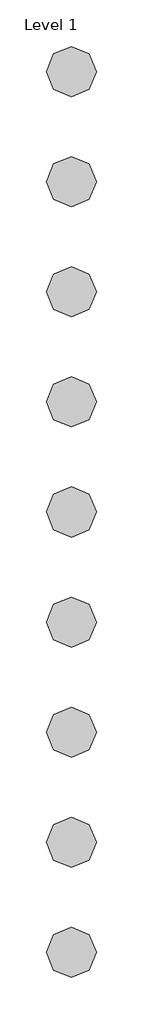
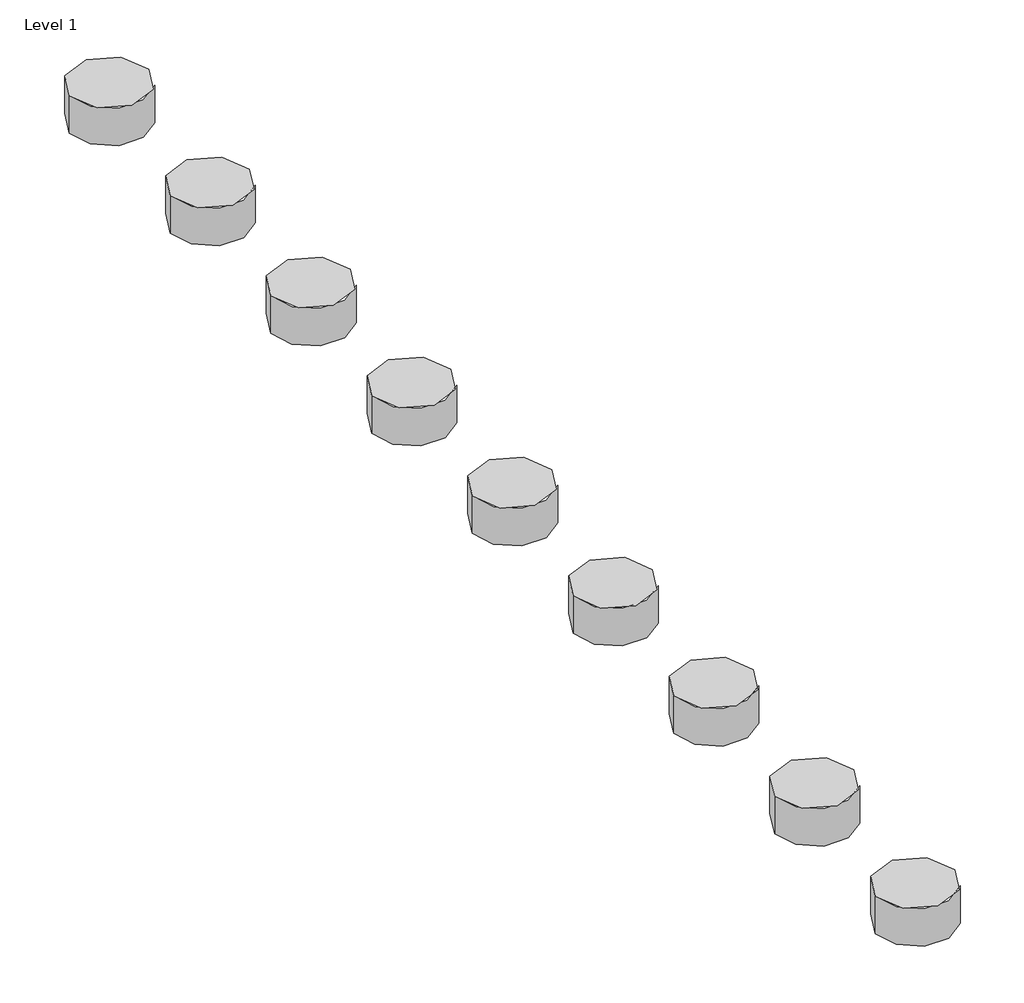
# One storey, incomplete: 9 proxies.
"""IFC4 building model written with IfcOpenShell, lengths in millimetres."""

from ifc_helpers import new_model, si_unit, origin, place, context, project, spatial, transform, mapped, element, save
from components import materialmodel_materialmodel_02e69005

model = new_model("IFC4")

# Units and contexts
model_context = context("Model", 3, world=origin())
ifc_project = project(units=[si_unit("LENGTHUNIT", "METRE", prefix="MILLI")], contexts=[model_context])

# Site, building, storey
site = spatial("IfcSite", under=ifc_project)
building = spatial("IfcBuilding", under=site)
storey = spatial("IfcBuildingStorey", under=building, Name="Level 1", Elevation=0.0)

# Proxies
placement = place(None, origin())
materialmodel_materialmodel_shape = materialmodel_materialmodel_02e69005(model_context)
element("IfcBuildingElementProxy", 1, Name="MaterialModel : MaterialModel", ObjectType="MaterialModel : MaterialModel", at=placement, inside=storey, context=model_context, shape_type="MappedRepresentation", body=[
    mapped(materialmodel_materialmodel_shape, transform((-5593.040011, 3733.9031123, 0.0), x_axis=(1.0, 0.0, 0.0), y_axis=(0.0, 1.0, 0.0), z_axis=(0.0, 0.0, 1.0))),
])
element("IfcBuildingElementProxy", 2, Name="MaterialModel : MaterialModel", ObjectType="MaterialModel : MaterialModel", at=placement, inside=storey, context=model_context, shape_type="MappedRepresentation", body=[
    mapped(materialmodel_materialmodel_shape, transform((-5593.040011, 3513.9031123, 0.0), x_axis=(1.0, 0.0, 0.0), y_axis=(0.0, 1.0, 0.0), z_axis=(0.0, 0.0, 1.0))),
])
element("IfcBuildingElementProxy", 3, Name="MaterialModel : MaterialModel", ObjectType="MaterialModel : MaterialModel", at=placement, inside=storey, context=model_context, shape_type="MappedRepresentation", body=[
    mapped(materialmodel_materialmodel_shape, transform((-5593.040011, 3293.9031123, 0.0), x_axis=(1.0, 0.0, 0.0), y_axis=(0.0, 1.0, 0.0), z_axis=(0.0, 0.0, 1.0))),
])
element("IfcBuildingElementProxy", 4, Name="MaterialModel : MaterialModel", ObjectType="MaterialModel : MaterialModel", at=placement, inside=storey, context=model_context, shape_type="MappedRepresentation", body=[
    mapped(materialmodel_materialmodel_shape, transform((-5593.040011, 3073.9031123, 0.0), x_axis=(1.0, 0.0, 0.0), y_axis=(0.0, 1.0, 0.0), z_axis=(0.0, 0.0, 1.0))),
])
element("IfcBuildingElementProxy", 5, Name="MaterialModel : MaterialModel", ObjectType="MaterialModel : MaterialModel", at=placement, inside=storey, context=model_context, shape_type="MappedRepresentation", body=[
    mapped(materialmodel_materialmodel_shape, transform((-5593.040011, 2853.9031123, 0.0), x_axis=(1.0, 0.0, 0.0), y_axis=(0.0, 1.0, 0.0), z_axis=(0.0, 0.0, 1.0))),
])
element("IfcBuildingElementProxy", 6, Name="MaterialModel : MaterialModel", ObjectType="MaterialModel : MaterialModel", at=placement, inside=storey, context=model_context, shape_type="MappedRepresentation", body=[
    mapped(materialmodel_materialmodel_shape, transform((-5593.040011, 2633.9031123, 0.0), x_axis=(1.0, 0.0, 0.0), y_axis=(0.0, 1.0, 0.0), z_axis=(0.0, 0.0, 1.0))),
])
element("IfcBuildingElementProxy", 7, Name="MaterialModel : MaterialModel", ObjectType="MaterialModel : MaterialModel", at=placement, inside=storey, context=model_context, shape_type="MappedRepresentation", body=[
    mapped(materialmodel_materialmodel_shape, transform((-5593.040011, 2413.9031123, 0.0), x_axis=(1.0, 0.0, 0.0), y_axis=(0.0, 1.0, 0.0), z_axis=(0.0, 0.0, 1.0))),
])
element("IfcBuildingElementProxy", 8, Name="MaterialModel : MaterialModel", ObjectType="MaterialModel : MaterialModel", at=placement, inside=storey, context=model_context, shape_type="MappedRepresentation", body=[
    mapped(materialmodel_materialmodel_shape, transform((-5593.040011, 2193.9031123, 0.0), x_axis=(1.0, 0.0, 0.0), y_axis=(0.0, 1.0, 0.0), z_axis=(0.0, 0.0, 1.0))),
])
element("IfcBuildingElementProxy", 9, Name="MaterialModel : MaterialModel", ObjectType="MaterialModel : MaterialModel", at=placement, inside=storey, context=model_context, shape_type="MappedRepresentation", body=[
    mapped(materialmodel_materialmodel_shape, transform((-5593.040011, 1973.9031123, 0.0), x_axis=(1.0, 0.0, 0.0), y_axis=(0.0, 1.0, 0.0), z_axis=(0.0, 0.0, 1.0))),
])

save(model, "model.ifc")
